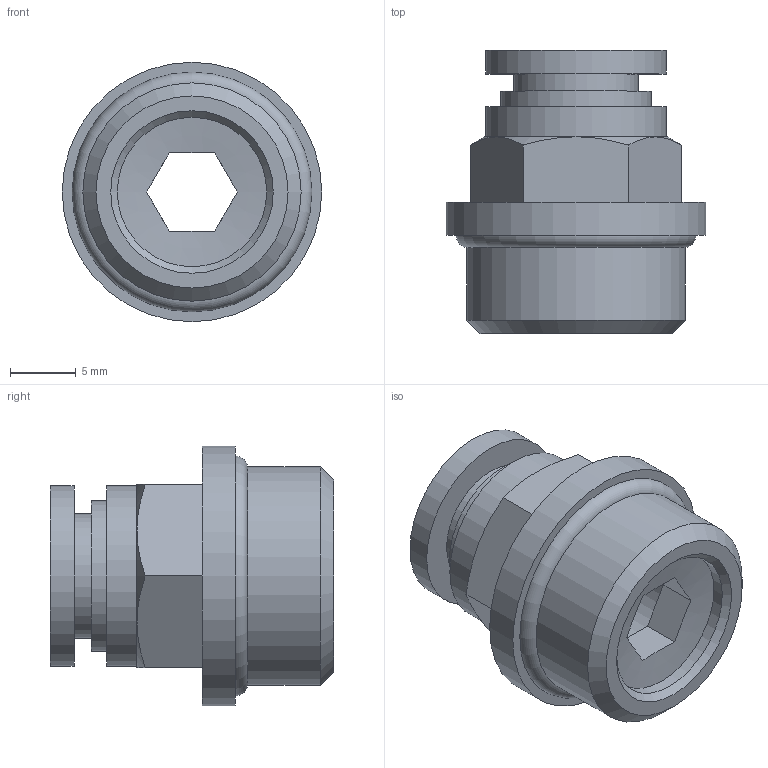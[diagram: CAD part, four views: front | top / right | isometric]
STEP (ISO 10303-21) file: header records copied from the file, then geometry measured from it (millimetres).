
FILE_DESCRIPTION(/* description */ (''),/* implementation_level */ '2;1');
FILE_NAME(/* name */ 'S:\_Tecnico\ArchivioUT\_Disegni3D ingombri\DISEGNI 3D per ingombri\RP\RP 51\RP513808.stp',/* time_stamp */ '2019-07-24T16:11:34+02:00',/* author */ ('ufficiotecnico3'),/* organization */ (''),/* preprocessor_version */ 'ST-DEVELOPER v18',/* originating_system */ 'Autodesk Inventor 2020',/* authorisation */ '');
FILE_SCHEMA (('AUTOMOTIVE_DESIGN { 1 0 10303 214 3 1 1 }'));
Length unit declared in the file: millimetre
Products named in the file (1): RP513808
Bounding box: 19.8 x 21.6 x 19.8 mm (x, y, z)
Volume: 2973.4 mm3; surface area: 2224.2 mm2
Topology: 1 solids, 1 shells, 40 faces, 103 edges, 72 vertices
Faces by surface type: plane 21, cone 10, cylinder 8, torus 1
Full cylindrical faces by diameter (mm): 8 x1, 9.5 x1, 11.4 x1, 11.5 x1, 13.8 x2, 16.662 x1, 19.8 x1
Entity records: 1271 total; most frequent: CARTESIAN_POINT 264, ORIENTED_EDGE 206, DIRECTION 204, EDGE_CURVE 103, AXIS2_PLACEMENT_3D 84, VERTEX_POINT 72, EDGE_LOOP 49, CIRCLE 43
